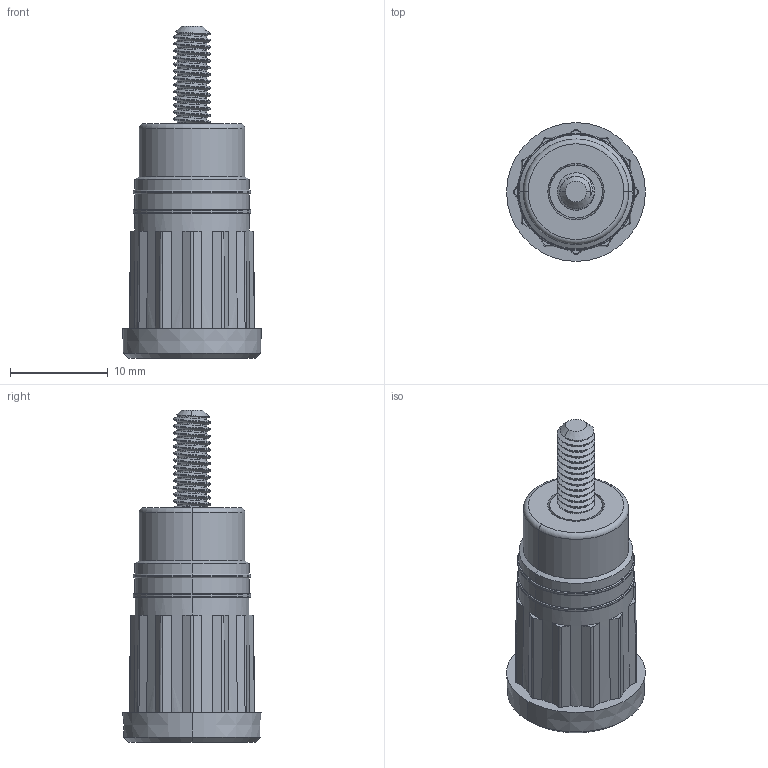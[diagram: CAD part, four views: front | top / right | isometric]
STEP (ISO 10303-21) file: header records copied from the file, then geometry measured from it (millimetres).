
FILE_DESCRIPTION (( 'STEP AP214' ), '1' );
FILE_NAME ('CT2243-6.STEP', '2017-10-12T15:12:14', ( '' ), ( '' ), 'SwSTEP 2.0', 'SolidWorks 2014', '' );
FILE_SCHEMA (( 'AUTOMOTIVE_DESIGN' ));
Length unit declared in the file: millimetre
Products named in the file (5): 440-310_440-310-06; 440-310; 440-3xx_440-302; 440-3xx; CT2243-6
Assembly tree (2 placements, depth 2):
  440-310
  440-3xx
  CT2243-6
    440-310_440-310-06
    440-3xx_440-302
Bounding box: 14.21 x 14.21 x 34 mm (x, y, z)
Volume: 1849.9 mm3; surface area: 3225 mm2
Topology: 2 solids, 2 shells, 294 faces, 721 edges, 457 vertices
Faces by surface type: plane 181, cone 45, cylinder 37, torus 16, bspline 15
Entity records: 10668 total; most frequent: CARTESIAN_POINT 3796, ORIENTED_EDGE 1438, DIRECTION 1373, EDGE_CURVE 719, AXIS2_PLACEMENT_3D 496, VERTEX_POINT 457, LINE 381, VECTOR 381
